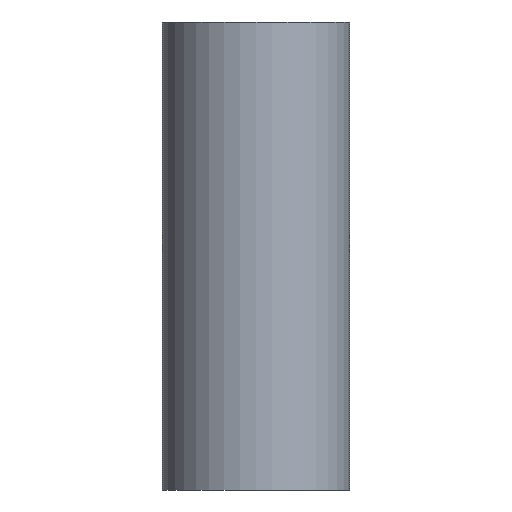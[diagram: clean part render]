
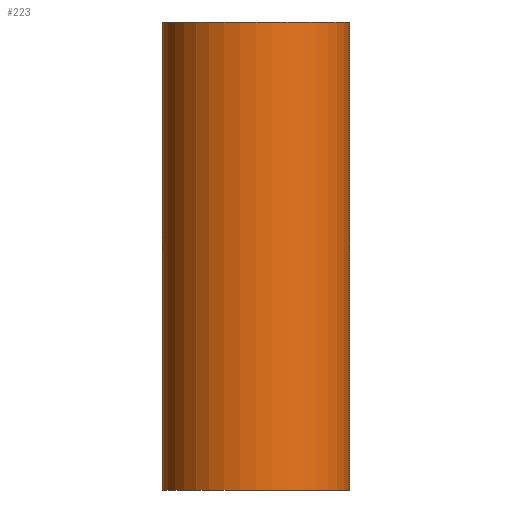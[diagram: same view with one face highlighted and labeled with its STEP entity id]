
A CAD part, left-side view. The second image highlights one B-rep face of the part: STEP entity #223.
In plain terms, the highlighted cylindrical face has radius 3 mm (diameter 6 mm), a partial arc.
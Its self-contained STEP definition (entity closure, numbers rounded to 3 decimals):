
#24 = VERTEX_POINT('',#25);
#25 = CARTESIAN_POINT('',(-454.,23.3,17.));
#44 = PLANE('',#45);
#45 = AXIS2_PLACEMENT_3D('',#46,#47,#48);
#46 = CARTESIAN_POINT('',(-457.,23.3,17.));
#47 = DIRECTION('',(0.,0.,1.));
#48 = DIRECTION('',(1.,0.,-0.));
#57 = VERTEX_POINT('',#58);
#58 = CARTESIAN_POINT('',(-457.,20.3,17.));
#110 = EDGE_CURVE('',#24,#57,#111,.T.);
#111 = SURFACE_CURVE('',#112,(#117,#124),.PCURVE_S1.);
#112 = CIRCLE('',#113,3.);
#113 = AXIS2_PLACEMENT_3D('',#114,#115,#116);
#114 = CARTESIAN_POINT('',(-457.,23.3,17.));
#115 = DIRECTION('',(0.,0.,1.));
#116 = DIRECTION('',(1.,0.,-0.));
#117 = PCURVE('',#44,#118);
#118 = DEFINITIONAL_REPRESENTATION('',(#119),#123);
#119 = CIRCLE('',#120,3.);
#120 = AXIS2_PLACEMENT_2D('',#121,#122);
#121 = CARTESIAN_POINT('',(0.,0.));
#122 = DIRECTION('',(1.,0.));
#123 = ( GEOMETRIC_REPRESENTATION_CONTEXT(2) 
PARAMETRIC_REPRESENTATION_CONTEXT() REPRESENTATION_CONTEXT('2D SPACE',''
  ) );
#124 = PCURVE('',#125,#130);
#125 = CYLINDRICAL_SURFACE('',#126,3.);
#126 = AXIS2_PLACEMENT_3D('',#127,#128,#129);
#127 = CARTESIAN_POINT('',(-457.,23.3,2.));
#128 = DIRECTION('',(0.,0.,1.));
#129 = DIRECTION('',(1.,0.,-0.));
#130 = DEFINITIONAL_REPRESENTATION('',(#131),#135);
#131 = LINE('',#132,#133);
#132 = CARTESIAN_POINT('',(0.,15.));
#133 = VECTOR('',#134,1.);
#134 = DIRECTION('',(1.,0.));
#135 = ( GEOMETRIC_REPRESENTATION_CONTEXT(2) 
PARAMETRIC_REPRESENTATION_CONTEXT() REPRESENTATION_CONTEXT('2D SPACE',''
  ) );
#158 = PLANE('',#159);
#159 = AXIS2_PLACEMENT_3D('',#160,#161,#162);
#160 = CARTESIAN_POINT('',(-457.,20.3,2.));
#161 = DIRECTION('',(-0.,1.,0.));
#162 = DIRECTION('',(0.,0.,1.));
#212 = PLANE('',#213);
#213 = AXIS2_PLACEMENT_3D('',#214,#215,#216);
#214 = CARTESIAN_POINT('',(-457.,23.3,2.));
#215 = DIRECTION('',(-0.,1.,0.));
#216 = DIRECTION('',(0.,0.,1.));
#223 = ADVANCED_FACE('',(#224),#125,.T.);
#224 = FACE_BOUND('',#225,.T.);
#225 = EDGE_LOOP('',(#226,#227,#250,#279));
#226 = ORIENTED_EDGE('',*,*,#110,.F.);
#227 = ORIENTED_EDGE('',*,*,#228,.F.);
#228 = EDGE_CURVE('',#229,#24,#231,.T.);
#229 = VERTEX_POINT('',#230);
#230 = CARTESIAN_POINT('',(-454.,23.3,2.));
#231 = SURFACE_CURVE('',#232,(#236,#243),.PCURVE_S1.);
#232 = LINE('',#233,#234);
#233 = CARTESIAN_POINT('',(-454.,23.3,2.));
#234 = VECTOR('',#235,1.);
#235 = DIRECTION('',(0.,0.,1.));
#236 = PCURVE('',#125,#237);
#237 = DEFINITIONAL_REPRESENTATION('',(#238),#242);
#238 = LINE('',#239,#240);
#239 = CARTESIAN_POINT('',(0.,-0.));
#240 = VECTOR('',#241,1.);
#241 = DIRECTION('',(0.,1.));
#242 = ( GEOMETRIC_REPRESENTATION_CONTEXT(2) 
PARAMETRIC_REPRESENTATION_CONTEXT() REPRESENTATION_CONTEXT('2D SPACE',''
  ) );
#243 = PCURVE('',#212,#244);
#244 = DEFINITIONAL_REPRESENTATION('',(#245),#249);
#245 = LINE('',#246,#247);
#246 = CARTESIAN_POINT('',(0.,3.));
#247 = VECTOR('',#248,1.);
#248 = DIRECTION('',(1.,0.));
#249 = ( GEOMETRIC_REPRESENTATION_CONTEXT(2) 
PARAMETRIC_REPRESENTATION_CONTEXT() REPRESENTATION_CONTEXT('2D SPACE',''
  ) );
#250 = ORIENTED_EDGE('',*,*,#251,.T.);
#251 = EDGE_CURVE('',#229,#252,#254,.T.);
#252 = VERTEX_POINT('',#253);
#253 = CARTESIAN_POINT('',(-457.,20.3,2.));
#254 = SURFACE_CURVE('',#255,(#260,#267),.PCURVE_S1.);
#255 = CIRCLE('',#256,3.);
#256 = AXIS2_PLACEMENT_3D('',#257,#258,#259);
#257 = CARTESIAN_POINT('',(-457.,23.3,2.));
#258 = DIRECTION('',(0.,0.,1.));
#259 = DIRECTION('',(1.,0.,-0.));
#260 = PCURVE('',#125,#261);
#261 = DEFINITIONAL_REPRESENTATION('',(#262),#266);
#262 = LINE('',#263,#264);
#263 = CARTESIAN_POINT('',(0.,0.));
#264 = VECTOR('',#265,1.);
#265 = DIRECTION('',(1.,0.));
#266 = ( GEOMETRIC_REPRESENTATION_CONTEXT(2) 
PARAMETRIC_REPRESENTATION_CONTEXT() REPRESENTATION_CONTEXT('2D SPACE',''
  ) );
#267 = PCURVE('',#268,#273);
#268 = PLANE('',#269);
#269 = AXIS2_PLACEMENT_3D('',#270,#271,#272);
#270 = CARTESIAN_POINT('',(-457.,23.3,2.));
#271 = DIRECTION('',(0.,0.,1.));
#272 = DIRECTION('',(1.,0.,-0.));
#273 = DEFINITIONAL_REPRESENTATION('',(#274),#278);
#274 = CIRCLE('',#275,3.);
#275 = AXIS2_PLACEMENT_2D('',#276,#277);
#276 = CARTESIAN_POINT('',(0.,0.));
#277 = DIRECTION('',(1.,0.));
#278 = ( GEOMETRIC_REPRESENTATION_CONTEXT(2) 
PARAMETRIC_REPRESENTATION_CONTEXT() REPRESENTATION_CONTEXT('2D SPACE',''
  ) );
#279 = ORIENTED_EDGE('',*,*,#280,.T.);
#280 = EDGE_CURVE('',#252,#57,#281,.T.);
#281 = SURFACE_CURVE('',#282,(#286,#293),.PCURVE_S1.);
#282 = LINE('',#283,#284);
#283 = CARTESIAN_POINT('',(-457.,20.3,2.));
#284 = VECTOR('',#285,1.);
#285 = DIRECTION('',(0.,0.,1.));
#286 = PCURVE('',#125,#287);
#287 = DEFINITIONAL_REPRESENTATION('',(#288),#292);
#288 = LINE('',#289,#290);
#289 = CARTESIAN_POINT('',(4.712,0.));
#290 = VECTOR('',#291,1.);
#291 = DIRECTION('',(0.,1.));
#292 = ( GEOMETRIC_REPRESENTATION_CONTEXT(2) 
PARAMETRIC_REPRESENTATION_CONTEXT() REPRESENTATION_CONTEXT('2D SPACE',''
  ) );
#293 = PCURVE('',#158,#294);
#294 = DEFINITIONAL_REPRESENTATION('',(#295),#299);
#295 = LINE('',#296,#297);
#296 = CARTESIAN_POINT('',(0.,0.));
#297 = VECTOR('',#298,1.);
#298 = DIRECTION('',(1.,0.));
#299 = ( GEOMETRIC_REPRESENTATION_CONTEXT(2) 
PARAMETRIC_REPRESENTATION_CONTEXT() REPRESENTATION_CONTEXT('2D SPACE',''
  ) );
